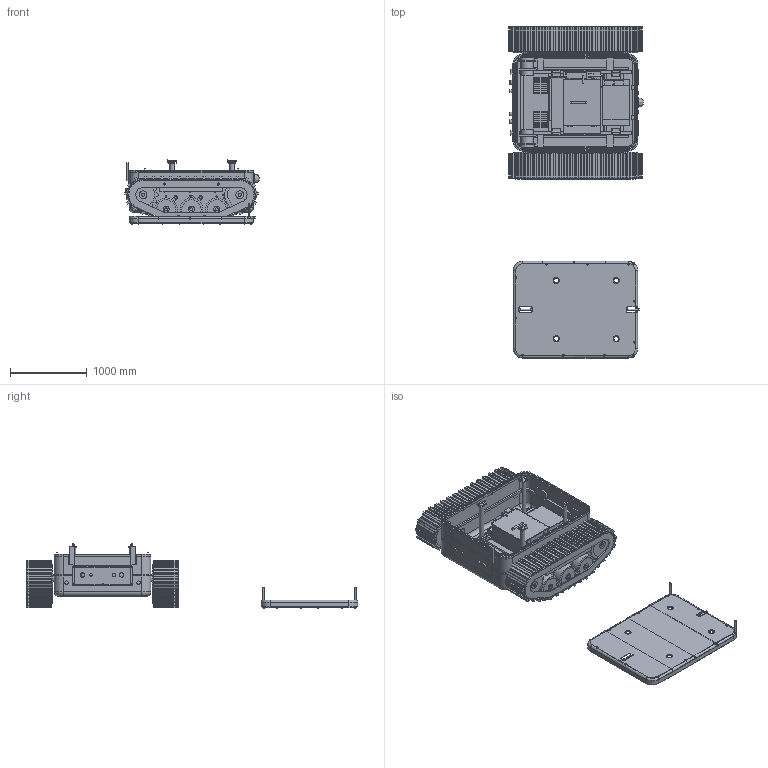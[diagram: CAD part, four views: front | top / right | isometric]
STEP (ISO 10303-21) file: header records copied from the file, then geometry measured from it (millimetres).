
FILE_DESCRIPTION(('Open CASCADE Model'),'2;1');
FILE_NAME('Open CASCADE Shape Model','2026-11-24T20:12:54',('Author'),( 'Open CASCADE'),'Open CASCADE STEP processor 7.9','Open CASCADE 7.9' ,'Unknown');
FILE_SCHEMA(('AUTOMOTIVE_DESIGN { 1 0 10303 214 1 1 1 1 }'));
Length unit declared in the file: centimetre
Products named in the file (266): AKORA_C03_TOP_COVER_REMOVED; 01_MAIN_BODY; BODY_LOWER; BODY_LOWER_TUB; BODY_JOINT_FLANGE_INNER; BODY_UPPER; BODY_UPPER_TUB; BODY_JOINT_BEAD; COVER_GASKET; COVER_GASKET_EPDM_10x8; PEDESTAL_GROMMET_600_L; PEDESTAL_GROMMET_600_R; PEDESTAL_GROMMET_1380_L; PEDESTAL_GROMMET_1380_R; SERVICE_PANEL_REAR_GASKET; COVER_INTERLOCK; COVER_SEAT_RING_FEMALE; COVER_LOCKS; COVER_QUARTER_TURN_STUD_01; COVER_RECEPTACLE_01; COVER_QUARTER_TURN_STUD_02; COVER_RECEPTACLE_02; COVER_QUARTER_TURN_STUD_03; COVER_RECEPTACLE_03; COVER_QUARTER_TURN_STUD_04; COVER_RECEPTACLE_04; COVER_QUARTER_TURN_STUD_05; COVER_RECEPTACLE_05; COVER_QUARTER_TURN_STUD_06; COVER_RECEPTACLE_06; COVER_QUARTER_TURN_STUD_07; COVER_RECEPTACLE_07; COVER_QUARTER_TURN_STUD_08; COVER_RECEPTACLE_08; COVER_QUARTER_TURN_STUD_09; COVER_RECEPTACLE_09; COVER_QUARTER_TURN_STUD_10; COVER_RECEPTACLE_10; INTERNAL_FRAME; FRAME_RAIL_L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
Assembly tree (333 placements, depth 5):
  AKORA_C03_TOP_COVER_REMOVED
    01_MAIN_BODY
      BODY_LOWER
        BODY_LOWER_TUB
        BODY_JOINT_FLANGE_INNER
      BODY_UPPER
        BODY_UPPER_TUB
        BODY_JOINT_BEAD
      COVER_GASKET
        COVER_GASKET_EPDM_10x8
        PEDESTAL_GROMMET_600_L
        PEDESTAL_GROMMET_600_R
        PEDESTAL_GROMMET_1380_L
        PEDESTAL_GROMMET_1380_R
        SERVICE_PANEL_REAR_GASKET
      COVER_INTERLOCK
        COVER_SEAT_RING_FEMALE
      COVER_LOCKS
        COVER_QUARTER_TURN_STUD_01
        COVER_RECEPTACLE_01
        COVER_QUARTER_TURN_STUD_02
        COVER_RECEPTACLE_02
        COVER_QUARTER_TURN_STUD_03
        COVER_RECEPTACLE_03
        COVER_QUARTER_TURN_STUD_04
        COVER_RECEPTACLE_04
        COVER_QUARTER_TURN_STUD_05
        COVER_RECEPTACLE_05
        COVER_QUARTER_TURN_STUD_06
        COVER_RECEPTACLE_06
        COVER_QUARTER_TURN_STUD_07
        COVER_RECEPTACLE_07
        COVER_QUARTER_TURN_STUD_08
        COVER_RECEPTACLE_08
        COVER_QUARTER_TURN_STUD_09
        COVER_RECEPTACLE_09
        COVER_QUARTER_TURN_STUD_10
        COVER_RECEPTACLE_10
      INTERNAL_FRAME
        FRAME_RAIL_L
        FRAME_RAIL_R
        FRAME_CROSS_1
        FRAME_CROSS_2
        FRAME_CROSS_3
        FRAME_CROSS_4
        FRAME_CROSS_5
        TRACK_MOTOR_PLATE_L
        TRACK_MOTOR_PLATE_R
      MOUNTING_BRACKETS
        FRAME_WALL_BRACKET_L_400
        FRAME_WALL_BRACKET_L_1300
        FRAME_WALL_BRACKET_R_400
        FRAME_WALL_BRACKET_R_1300
        P1_PEDESTAL_600_L
        P1_PEDESTAL_600_R
        P1_PEDESTAL_1380_L
        P1_PEDESTAL_1380_R
        REAR_LANDING_BRACKET_L
        REAR_LANDING_BRACKET_R
      SERVICE_PANELS
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Bounding box: 1754.89 x 4327 x 836 mm (x, y, z)
Volume: 489448220.6 mm3; surface area: 50376156.4 mm2
Topology: 297 solids, 301 shells, 4552 faces, 11201 edges, 7458 vertices
Faces by surface type: plane 3067, cylinder 1459, torus 16, sphere 8, revolution 2
Full cylindrical faces by diameter (mm): 8 x18, 9 x20, 9.2 x10, 10 x22, 10.5 x4, 12 x6, 13 x4, 14 x4, 16 x24, 20 x15, 22 x10, 24 x15, 28 x16, 30 x12, 32 x18, 36 x2, 40 x72, 44 x11, 48 x4, 56 x2, 60 x5, 62 x4, 72 x20, 76 x4, 80 x14, 90 x12, 100 x4, 140 x1, 160 x4, 190 x2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
Entity records: 171264 total; most frequent: CARTESIAN_POINT 35126, DIRECTION 24893, LINE 15226, VECTOR 15226, ORIENTED_EDGE 12584, PCURVE 12584, DEFINITIONAL_REPRESENTATION 12584, EDGE_CURVE 6292
